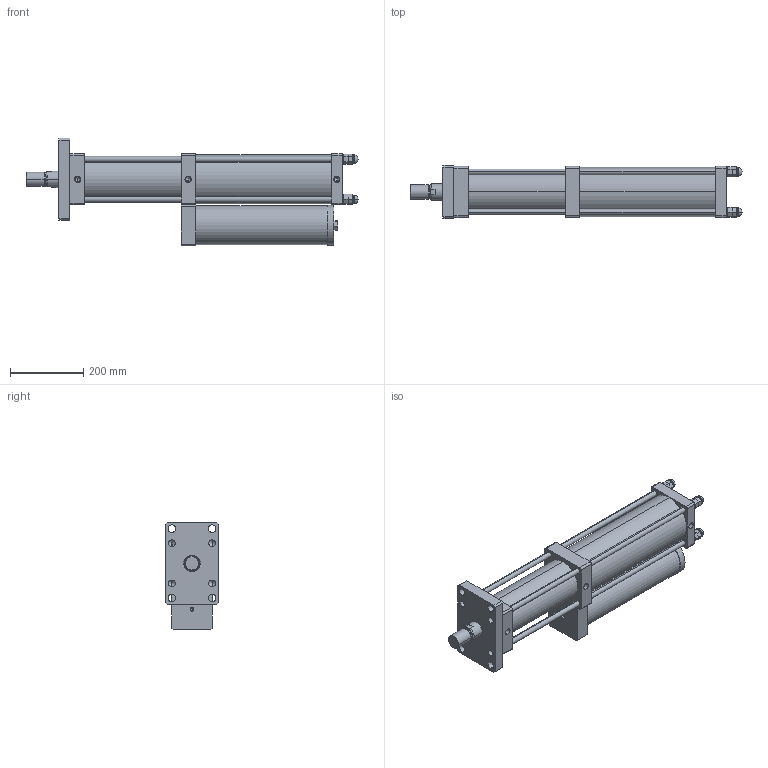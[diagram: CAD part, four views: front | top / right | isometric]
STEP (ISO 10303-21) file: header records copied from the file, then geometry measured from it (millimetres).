
FILE_DESCRIPTION (( 'STEP AP203' ), '1' );
FILE_NAME ('MPT-100-200-20-13T.STEP', '2016-03-28T10:22:21', ( 'WIN' ), ( '' ), 'SwSTEP 2.0', 'SolidWorks 2014', '' );
FILE_SCHEMA (( 'CONFIG_CONTROL_DESIGN' ));
Length unit declared in the file: millimetre
Products named in the file (1): MPT-100-200-20-13T
Bounding box: 909 x 145 x 294.5 mm (x, y, z)
Volume: 15566254.7 mm3; surface area: 902715.4 mm2
Topology: 13 solids, 13 shells, 400 faces, 980 edges, 555 vertices
Faces by surface type: plane 188, cylinder 80, torus 48, bspline 48, cone 36
Entity records: 12751 total; most frequent: CARTESIAN_POINT 3688, DIRECTION 1936, ORIENTED_EDGE 1812, EDGE_CURVE 906, AXIS2_PLACEMENT_3D 727, VERTEX_POINT 555, LINE 482, VECTOR 482
